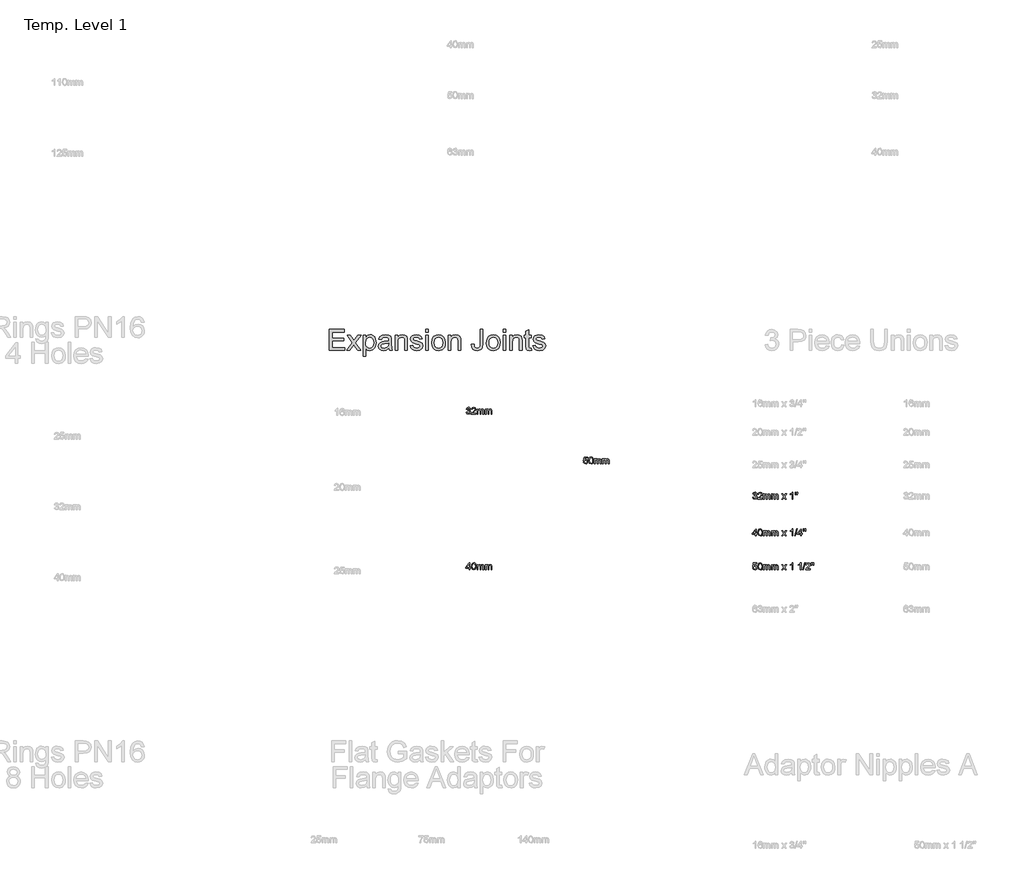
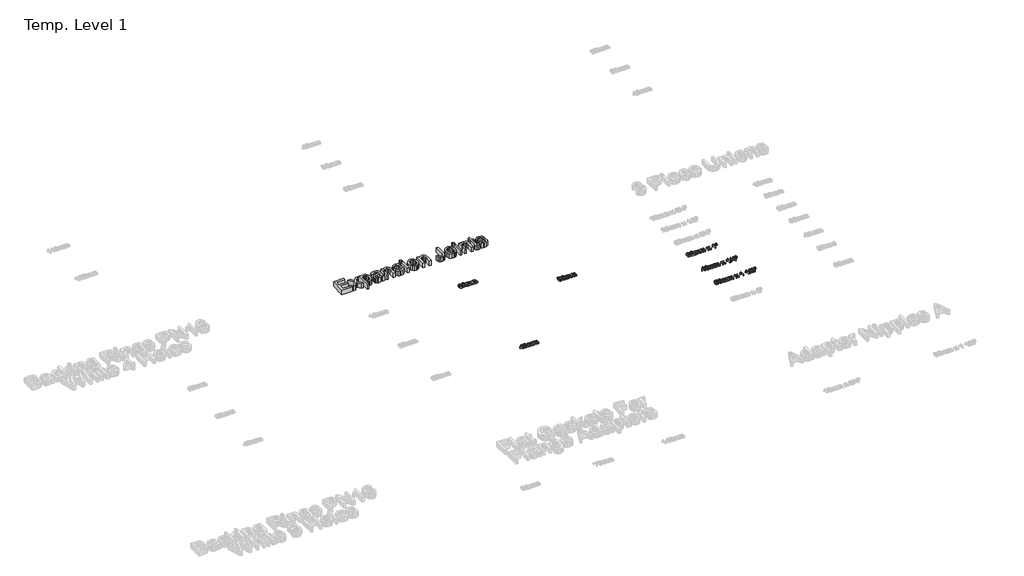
# One storey, part 12 of 62: 7 proxies.
"""IFC4 building model written with IfcOpenShell, lengths in millimetres."""

from ifc_helpers import new_model, si_unit, origin, origin_with_axes, place, context, project, spatial, polyline, outline, extrude, element, save

model = new_model("IFC4")

# Units and contexts
model_context = context("Model", 3, world=origin())
ifc_project = project(units=[si_unit("LENGTHUNIT", "METRE", prefix="MILLI")], contexts=[model_context])

# Site, building, storey
site = spatial("IfcSite", under=ifc_project)
building = spatial("IfcBuilding", under=site)
storey = spatial("IfcBuildingStorey", under=building, Name="Temp. Level 1", Elevation=0.0)

# Proxies
placement = place(None, origin())
element("IfcBuildingElementProxy", 1, Name="150mm Arial", ObjectType="150mm Arial", at=placement, inside=storey, context=model_context, shape_type="SweptSolid", body=[
    extrude(outline(polyline([(11659.9637904, -4070.198517), (11659.9637904, -3922.5062093), (11766.1176365, -3922.5062093), (11766.1176365, -3940.9677478), (11678.4253288, -3940.9677478), (11678.4253288, -3984.8139016), (11761.5022519, -3984.8139016), (11761.5022519, -4003.2754401), (11678.4253288, -4003.2754401), (11678.4253288, -4051.7369786), (11768.4253288, -4051.7369786), (11768.4253288, -4070.198517), (11659.9637904, -4070.198517)])), origin_with_axes(), (0.0, 0.0, 1.0), 50.0),
    extrude(outline(polyline([(11782.2714827, -4070.198517), (11821.7185981, -4015.6792862), (11784.579175, -3961.7369786), (11806.7907135, -3961.7369786), (11824.7113865, -3987.698517), (11833.0767712, -3999.9581324), (11840.3243673, -3989.9340939), (11860.7330212, -3961.7369786), (11882.9445596, -3961.7369786), (11843.9301365, -4015.6792862), (11881.5022519, -4070.198517), (11859.2907135, -4070.198517), (11836.6825404, -4037.4220747), (11832.5359058, -4031.4364978), (11804.4830212, -4070.198517), (11782.2714827, -4070.198517)])), origin_with_axes(), (0.0, 0.0, 1.0), 50.0),
    extrude(outline(polyline([(11897.6560981, -4111.7369786), (11897.6560981, -3961.7369786), (11916.1176365, -3961.7369786), (11916.1176365, -3979.8379401), (11928.8820596, -3964.5314497), (11946.1176365, -3959.4292862), (11958.6026125, -3961.214142), (11969.5190788, -3966.5687093), (11978.4073, -3975.1684689), (11984.8075404, -3986.6889016), (11989.9637904, -4015.1384209), (11988.5079611, -4030.9271829), (11984.1404731, -4045.0482766), (11977.00105, -4056.7850555), (11967.2294154, -4065.4208728), (11955.8487063, -4070.7348752), (11943.8820596, -4072.5062093), (11927.8183577, -4067.7646228), (11916.1176365, -4055.7754401), (11916.1176365, -4111.7369786), (11897.6560981, -4111.7369786)]), holes=[polyline([(11916.1176365, -4016.8331324), (11918.1143313, -4033.3836132), (11924.1044154, -4044.9581324), (11932.9430572, -4051.7730362), (11943.485425, -4054.0446709), (11954.1990668, -4051.6919064), (11963.2630692, -4044.6336132), (11969.4424563, -4032.6354161), (11971.5022519, -4015.4629401), (11969.4920356, -3999.0026036), (11963.4613865, -3987.2658247), (11954.6362663, -3980.2345747), (11944.2426365, -3977.8908247), (11933.8084418, -3980.3833127), (11924.6452808, -3987.8607766), (11918.2495476, -4000.0888415), (11916.1176365, -4016.8331324)])]), origin_with_axes(), (0.0, 0.0, 1.0), 50.0),
    extrude(outline(polyline([(12079.9637904, -4056.3523632), (12062.0611462, -4068.8643824), (12042.2835019, -4072.5062093), (12026.8553168, -4070.3157045), (12015.4746077, -4063.7441901), (12008.4568793, -4053.7652237), (12006.1176365, -4041.3523632), (12009.6512904, -4026.7489978), (12018.9361462, -4016.1480362), (12031.8628288, -4010.0903439), (12047.8363865, -4007.3139016), (12079.8556173, -4000.9677478), (12079.9637904, -3996.8571709), (12078.6927567, -3988.6179882), (12074.8796558, -3983.2273632), (12066.3520115, -3979.2249593), (12054.4710019, -3977.8908247), (12035.7931173, -3981.4425074), (12026.8868673, -3994.0446709), (12008.4253288, -3991.7369786), (12016.4121077, -3973.7081324), (12032.4938385, -3963.1432286), (12056.8508096, -3959.4292862), (12079.2246077, -3962.7105362), (12091.8628288, -3970.9497189), (12097.5238865, -3983.479767), (12098.4253288, -3999.6336132), (12098.4253288, -4022.6023632), (12099.3628288, -4054.6756805), (12103.0407135, -4070.198517), (12084.579175, -4070.198517), (12079.9637904, -4056.3523632)]), holes=[polyline([(12079.9637904, -4019.4292862), (12050.1801365, -4025.0903439), (12034.2967231, -4028.0831324), (12027.1032135, -4032.9509209), (12024.579175, -4040.0542862), (12030.0779731, -4050.042267), (12046.2137904, -4054.0446709), (12064.891675, -4049.6276036), (12076.9349442, -4038.9364978), (12079.8556173, -4024.6576516), (12079.9637904, -4019.4292862)])]), origin_with_axes(), (0.0, 0.0, 1.0), 50.0),
    extrude(outline(polyline([(12123.8099442, -4070.198517), (12123.8099442, -3961.7369786), (12142.2714827, -3961.7369786), (12142.2714827, -3976.8812093), (12156.3880692, -3963.792267), (12175.6609058, -3959.4292862), (12193.0948, -3962.9449112), (12204.9938385, -3972.1756805), (12210.5286942, -3985.7514016), (12211.5022519, -4003.5999593), (12211.5022519, -4070.198517), (12193.0407135, -4070.198517), (12193.0407135, -4006.0879401), (12190.9133096, -3989.7538055), (12183.3952808, -3981.1179882), (12170.7210019, -3977.8908247), (12159.9082014, -3979.7027237), (12150.6909538, -3985.1384209), (12144.3763505, -3995.6402237), (12142.2714827, -4012.6504401), (12142.2714827, -4070.198517), (12123.8099442, -4070.198517)])), origin_with_axes(), (0.0, 0.0, 1.0), 50.0),
    extrude(outline(polyline([(12229.9637904, -4037.8908247), (12248.4253288, -4035.5831324), (12251.3369875, -4043.479767), (12256.9710019, -4049.2850555), (12276.5503288, -4054.0446709), (12295.3724442, -4049.6816901), (12301.5022519, -4039.4413055), (12295.3363865, -4031.1480362), (12276.3339827, -4025.8836132), (12248.5335019, -4016.8511612), (12236.4000885, -4006.3042862), (12232.2714827, -3991.4124593), (12235.5887904, -3977.6564497), (12244.6392712, -3967.1456324), (12256.37605, -3961.682892), (12272.2594635, -3959.4292862), (12294.7234058, -3963.0530843), (12309.0022519, -3972.8607766), (12315.3484058, -3989.4292862), (12296.8868673, -3991.7369786), (12289.9457615, -3981.5506805), (12273.7017712, -3977.8908247), (12256.0335019, -3981.3884209), (12250.7330212, -3989.5374593), (12252.9325404, -3994.9100555), (12259.8195596, -3998.9845747), (12275.7210019, -4002.9148632), (12302.8183577, -4011.604767), (12315.4024923, -4021.448517), (12319.9637904, -4037.4941901), (12314.6092231, -4055.1624593), (12299.1585019, -4067.9809689), (12276.297925, -4072.5062093), (12257.6831413, -4070.3247189), (12244.0984058, -4063.7802478), (12235.0298962, -4052.9449112), (12229.9637904, -4037.8908247)])), origin_with_axes(), (0.0, 0.0, 1.0), 50.0),
    extrude(outline(polyline([(12340.7330212, -3940.9677478), (12340.7330212, -3922.5062093), (12359.1945596, -3922.5062093), (12359.1945596, -3940.9677478), (12340.7330212, -3940.9677478)])), origin_with_axes(), (0.0, 0.0, 1.0), 50.0),
    extrude(outline(polyline([(12340.7330212, -4070.198517), (12340.7330212, -3961.7369786), (12359.1945596, -3961.7369786), (12359.1945596, -4070.198517), (12340.7330212, -4070.198517)])), origin_with_axes(), (0.0, 0.0, 1.0), 50.0),
    extrude(outline(polyline([(12382.2714827, -4015.9677478), (12386.2648721, -3989.8169064), (12398.2450404, -3971.4364978), (12413.0467231, -3962.4310891), (12430.7690788, -3959.4292862), (12450.1636101, -3963.0846348), (12465.6548962, -3974.0506805), (12475.8096438, -3991.4620387), (12479.1945596, -4014.4533247), (12477.6981654, -4033.1041661), (12473.2089827, -4047.3018824), (12465.8577207, -4057.9343944), (12455.7750885, -4065.8896228), (12443.7994274, -4070.8520627), (12430.7690788, -4072.5062093), (12411.1401726, -4068.8643824), (12395.6669154, -4057.9389016), (12385.6203409, -4040.1624593), (12382.2714827, -4015.9677478)]), holes=[polyline([(12400.7330212, -4015.9316901), (12402.8694394, -4032.6399233), (12409.2786942, -4044.5434689), (12418.9241269, -4051.6693704), (12430.7690788, -4054.0446709), (12442.5599442, -4051.6558487), (12452.1873481, -4044.4893824), (12458.5966029, -4032.4280843), (12460.7330212, -4015.354767), (12458.5830813, -3999.1333127), (12452.1332615, -3987.3920266), (12442.4923361, -3980.2661252), (12430.7690788, -3977.8908247), (12418.9241269, -3980.2571108), (12409.2786942, -3987.3559689), (12402.8694394, -3999.2324713), (12400.7330212, -4015.9316901)])]), origin_with_axes(), (0.0, 0.0, 1.0), 50.0),
    extrude(outline(polyline([(12499.9637904, -4070.198517), (12499.9637904, -3961.7369786), (12518.4253288, -3961.7369786), (12518.4253288, -3976.8812093), (12532.5419154, -3963.792267), (12551.8147519, -3959.4292862), (12569.2486462, -3962.9449112), (12581.1476846, -3972.1756805), (12586.6825404, -3985.7514016), (12587.6560981, -4003.5999593), (12587.6560981, -4070.198517), (12569.1945596, -4070.198517), (12569.1945596, -4006.0879401), (12567.0671558, -3989.7538055), (12559.5491269, -3981.1179882), (12546.8748481, -3977.8908247), (12536.0620476, -3979.7027237), (12526.8448, -3985.1384209), (12520.5301966, -3995.6402237), (12518.4253288, -4012.6504401), (12518.4253288, -4070.198517), (12499.9637904, -4070.198517)])), origin_with_axes(), (0.0, 0.0, 1.0), 50.0),
    extrude(outline(polyline([(12663.8099442, -4028.7321709), (12682.2714827, -4026.3523632), (12684.1915548, -4039.7748391), (12688.5815788, -4048.167267), (12695.2883096, -4052.5753199), (12704.1585019, -4054.0446709), (12716.7967231, -4050.7093343), (12724.1164346, -4041.6227959), (12726.1176365, -4023.323517), (12726.1176365, -3922.5062093), (12744.579175, -3922.5062093), (12744.579175, -4022.9989978), (12740.12605, -4051.682892), (12734.3658337, -4060.6297069), (12725.9914346, -4067.1696709), (12703.2931173, -4072.5062093), (12686.2288144, -4069.7523031), (12673.6897519, -4061.4905843), (12666.0815788, -4047.7931685), (12663.8099442, -4028.7321709)])), origin_with_axes(), (0.0, 0.0, 1.0), 50.0),
    extrude(outline(polyline([(12769.9637904, -4015.9677478), (12773.9571798, -3989.8169064), (12785.9373481, -3971.4364978), (12800.7390308, -3962.4310891), (12818.4613865, -3959.4292862), (12837.8559178, -3963.0846348), (12853.3472038, -3974.0506805), (12863.5019514, -3991.4620387), (12866.8868673, -4014.4533247), (12865.3904731, -4033.1041661), (12860.9012904, -4047.3018824), (12853.5500284, -4057.9343944), (12843.4673962, -4065.8896228), (12831.4917351, -4070.8520627), (12818.4613865, -4072.5062093), (12798.8324803, -4068.8643824), (12783.3592231, -4057.9389016), (12773.3126486, -4040.1624593), (12769.9637904, -4015.9677478)]), holes=[polyline([(12788.4253288, -4015.9316901), (12790.5617471, -4032.6399233), (12796.9710019, -4044.5434689), (12806.6164346, -4051.6693704), (12818.4613865, -4054.0446709), (12830.2522519, -4051.6558487), (12839.8796558, -4044.4893824), (12846.2889106, -4032.4280843), (12848.4253288, -4015.354767), (12846.2753889, -3999.1333127), (12839.8255692, -3987.3920266), (12830.1846438, -3980.2661252), (12818.4613865, -3977.8908247), (12806.6164346, -3980.2571108), (12796.9710019, -3987.3559689), (12790.5617471, -3999.2324713), (12788.4253288, -4015.9316901)])]), origin_with_axes(), (0.0, 0.0, 1.0), 50.0),
    extrude(outline(polyline([(12887.6560981, -4070.198517), (12887.6560981, -3961.7369786), (12906.1176365, -3961.7369786), (12906.1176365, -4070.198517), (12887.6560981, -4070.198517)])), origin_with_axes(), (0.0, 0.0, 1.0), 50.0),
    extrude(outline(polyline([(12887.6560981, -3940.9677478), (12887.6560981, -3922.5062093), (12906.1176365, -3922.5062093), (12906.1176365, -3940.9677478), (12887.6560981, -3940.9677478)])), origin_with_axes(), (0.0, 0.0, 1.0), 50.0),
    extrude(outline(polyline([(12933.8099442, -4070.198517), (12933.8099442, -3961.7369786), (12952.2714827, -3961.7369786), (12952.2714827, -3976.8812093), (12966.3880692, -3963.792267), (12985.6609058, -3959.4292862), (13003.0948, -3962.9449112), (13014.9938385, -3972.1756805), (13020.5286942, -3985.7514016), (13021.5022519, -4003.5999593), (13021.5022519, -4070.198517), (13003.0407135, -4070.198517), (13003.0407135, -4006.0879401), (13000.9133096, -3989.7538055), (12993.3952808, -3981.1179882), (12980.7210019, -3977.8908247), (12969.9082014, -3979.7027237), (12960.6909538, -3985.1384209), (12954.3763505, -3995.6402237), (12952.2714827, -4012.6504401), (12952.2714827, -4070.198517), (12933.8099442, -4070.198517)])), origin_with_axes(), (0.0, 0.0, 1.0), 50.0),
    extrude(outline(polyline([(13086.1176365, -4054.8018824), (13088.4253288, -4070.7393824), (13074.6152327, -4072.5062093), (13059.1464827, -4069.4413055), (13051.4301365, -4061.4004401), (13049.1945596, -4040.4509209), (13049.1945596, -3980.198517), (13035.3484058, -3980.198517), (13035.3484058, -3961.7369786), (13049.1945596, -3961.7369786), (13049.1945596, -3935.3788055), (13067.6560981, -3924.5254401), (13067.6560981, -3961.7369786), (13086.1176365, -3961.7369786), (13086.1176365, -3980.198517), (13067.6560981, -3980.198517), (13067.6560981, -4039.9100555), (13068.6296558, -4049.4292862), (13071.7847038, -4052.8006805), (13078.0767712, -4054.0446709), (13086.1176365, -4054.8018824)])), origin_with_axes(), (0.0, 0.0, 1.0), 50.0),
    extrude(outline(polyline([(13097.6560981, -4037.8908247), (13116.1176365, -4035.5831324), (13119.0292952, -4043.479767), (13124.6633096, -4049.2850555), (13144.2426365, -4054.0446709), (13163.0647519, -4049.6816901), (13169.1945596, -4039.4413055), (13163.0286942, -4031.1480362), (13144.0262904, -4025.8836132), (13116.2258096, -4016.8511612), (13104.0923962, -4006.3042862), (13099.9637904, -3991.4124593), (13103.2810981, -3977.6564497), (13112.3315788, -3967.1456324), (13124.0683577, -3961.682892), (13139.9517712, -3959.4292862), (13162.4157135, -3963.0530843), (13176.6945596, -3972.8607766), (13183.0407135, -3989.4292862), (13164.579175, -3991.7369786), (13157.6380692, -3981.5506805), (13141.3940788, -3977.8908247), (13123.7258096, -3981.3884209), (13118.4253288, -3989.5374593), (13120.6248481, -3994.9100555), (13127.5118673, -3998.9845747), (13143.4133096, -4002.9148632), (13170.5106654, -4011.604767), (13183.0948, -4021.448517), (13187.6560981, -4037.4941901), (13182.3015308, -4055.1624593), (13166.8508096, -4067.9809689), (13143.9902327, -4072.5062093), (13125.375449, -4070.3247189), (13111.7907135, -4063.7802478), (13102.7222038, -4052.9449112), (13097.6560981, -4037.8908247)])), origin_with_axes(), (0.0, 0.0, 1.0), 50.0),
])
element("IfcBuildingElementProxy", 2, Name="50mm Arial", ObjectType="50mm Arial", at=placement, inside=storey, context=model_context, shape_type="SweptSolid", body=[
    extrude(outline(polyline([(12626.506, -4507.8404181), (12632.6598462, -4507.0711873), (12636.0552789, -4513.5495527), (12642.4074423, -4515.5327257), (12649.8834039, -4512.8043604), (12652.6598462, -4506.0495527), (12649.9074423, -4499.68537), (12642.91225, -4497.1673411), (12638.5973462, -4497.8404181), (12639.2824423, -4491.6865719), (12647.2511923, -4489.9918604), (12650.3521539, -4484.5591681), (12648.1045577, -4479.7454661), (12642.3112885, -4477.8404181), (12636.4459039, -4479.763495), (12633.4290769, -4485.5327257), (12627.2752308, -4484.763495), (12632.3112885, -4475.1120527), (12642.0949423, -4471.6865719), (12649.5168173, -4473.3752738), (12654.709125, -4477.9906584), (12656.506, -4484.1985911), (12654.7992692, -4489.8716681), (12649.7511923, -4493.9461873), (12656.4579231, -4498.1529181), (12658.8136923, -4506.1577257), (12654.1021539, -4517.1673411), (12642.1910962, -4521.6865719), (12631.3978269, -4517.8283988), (12626.506, -4507.8404181)])), origin_with_axes(), (0.0, 0.0, 1.0), 15.0),
    extrude(outline(polyline([(12695.7367692, -4514.763495), (12695.7367692, -4520.9173411), (12663.4290769, -4520.9173411), (12664.0901346, -4516.6745527), (12667.8281154, -4510.1421007), (12675.5324423, -4503.0086873), (12686.1574423, -4492.7562834), (12688.8136923, -4485.7851296), (12686.3076827, -4480.1421007), (12679.7632115, -4477.8404181), (12672.9422981, -4480.0880142), (12670.3521539, -4486.3019565), (12664.1983077, -4485.5327257), (12668.9158558, -4475.232245), (12679.8954231, -4471.6865719), (12690.9110481, -4475.6288796), (12694.9675385, -4485.4125334), (12693.8737885, -4491.24787), (12690.2379712, -4497.2815238), (12681.4218654, -4505.7130142), (12674.3425385, -4511.6324854), (12671.5660962, -4514.763495), (12695.7367692, -4514.763495)])), origin_with_axes(), (0.0, 0.0, 1.0), 15.0),
    extrude(outline(polyline([(12703.4290769, -4520.9173411), (12703.4290769, -4484.763495), (12709.5829231, -4484.763495), (12709.5829231, -4490.7130142), (12713.8136923, -4485.8392161), (12719.8353269, -4483.9942642), (12726.0011923, -4485.8752738), (12729.3906154, -4491.1457065), (12734.1922981, -4485.7821248), (12740.256, -4483.9942642), (12748.302875, -4486.9690238), (12751.1213846, -4496.1336873), (12751.1213846, -4520.9173411), (12744.9675385, -4520.9173411), (12744.9675385, -4498.7779181), (12744.396625, -4493.6396969), (12742.3293173, -4491.1096488), (12738.8136923, -4490.1481104), (12732.7620096, -4492.6120527), (12730.3521539, -4500.5086873), (12730.3521539, -4520.9173411), (12724.1983077, -4520.9173411), (12724.1983077, -4498.0928219), (12722.7740289, -4492.1312834), (12718.1045577, -4490.1481104), (12713.5492692, -4491.4702257), (12710.5204231, -4495.3404181), (12709.5829231, -4502.6841681), (12709.5829231, -4520.9173411), (12703.4290769, -4520.9173411)])), origin_with_axes(), (0.0, 0.0, 1.0), 15.0),
    extrude(outline(polyline([(12760.3521539, -4520.9173411), (12760.3521539, -4484.763495), (12766.506, -4484.763495), (12766.506, -4490.7130142), (12770.7367692, -4485.8392161), (12776.7584039, -4483.9942642), (12782.9242692, -4485.8752738), (12786.3136923, -4491.1457065), (12791.115375, -4485.7821248), (12797.1790769, -4483.9942642), (12805.2259519, -4486.9690238), (12808.0444615, -4496.1336873), (12808.0444615, -4520.9173411), (12801.8906154, -4520.9173411), (12801.8906154, -4498.7779181), (12801.3197019, -4493.6396969), (12799.2523942, -4491.1096488), (12795.7367692, -4490.1481104), (12789.6850865, -4492.6120527), (12787.2752308, -4500.5086873), (12787.2752308, -4520.9173411), (12781.1213846, -4520.9173411), (12781.1213846, -4498.0928219), (12779.6971058, -4492.1312834), (12775.0276346, -4490.1481104), (12770.4723462, -4491.4702257), (12767.4435, -4495.3404181), (12766.506, -4502.6841681), (12766.506, -4520.9173411), (12760.3521539, -4520.9173411)])), origin_with_axes(), (0.0, 0.0, 1.0), 15.0),
])
element("IfcBuildingElementProxy", 3, Name="50mm Arial", ObjectType="50mm Arial", at=placement, inside=storey, context=model_context, shape_type="SweptSolid", body=[
    extrude(outline(polyline([(12646.506, -5620.9173411), (12646.506, -5609.3788796), (12624.1983077, -5609.3788796), (12624.1983077, -5603.2250334), (12648.0444615, -5572.4558027), (12652.6598462, -5572.4558027), (12652.6598462, -5603.2250334), (12658.8136923, -5603.2250334), (12658.8136923, -5609.3788796), (12652.6598462, -5609.3788796), (12652.6598462, -5620.9173411), (12646.506, -5620.9173411)]), holes=[polyline([(12646.506, -5603.2250334), (12646.506, -5584.2106104), (12631.7704231, -5603.2250334), (12646.506, -5603.2250334)])]), origin_with_axes(), (0.0, 0.0, 1.0), 15.0),
    extrude(outline(polyline([(12664.1983077, -5596.6985911), (12666.0072019, -5582.5339277), (12671.3797981, -5574.3668604), (12680.3521539, -5571.6865719), (12687.5396539, -5573.2731104), (12692.5035962, -5577.8464277), (12695.3882115, -5585.1300815), (12696.506, -5596.6985911), (12694.7151346, -5610.8031584), (12689.3605673, -5618.9882546), (12680.3521539, -5621.6865719), (12669.1021539, -5616.9990719), (12665.4242692, -5608.6727498), (12664.1983077, -5596.6985911)]), holes=[polyline([(12670.3521539, -5596.6865719), (12673.2367692, -5611.9690238), (12680.3521539, -5615.5327257), (12687.4675385, -5611.9570046), (12690.3521539, -5596.6865719), (12687.5636923, -5581.5783988), (12680.2800385, -5577.8404181), (12673.3329231, -5581.1336873), (12670.3521539, -5596.6865719)])]), origin_with_axes(), (0.0, 0.0, 1.0), 15.0),
    extrude(outline(polyline([(12703.4290769, -5620.9173411), (12703.4290769, -5584.763495), (12709.5829231, -5584.763495), (12709.5829231, -5590.7130142), (12713.8136923, -5585.8392161), (12719.8353269, -5583.9942642), (12726.0011923, -5585.8752738), (12729.3906154, -5591.1457065), (12734.1922981, -5585.7821248), (12740.256, -5583.9942642), (12748.302875, -5586.9690238), (12751.1213846, -5596.1336873), (12751.1213846, -5620.9173411), (12744.9675385, -5620.9173411), (12744.9675385, -5598.7779181), (12744.396625, -5593.6396969), (12742.3293173, -5591.1096488), (12738.8136923, -5590.1481104), (12732.7620096, -5592.6120527), (12730.3521539, -5600.5086873), (12730.3521539, -5620.9173411), (12724.1983077, -5620.9173411), (12724.1983077, -5598.0928219), (12722.7740289, -5592.1312834), (12718.1045577, -5590.1481104), (12713.5492692, -5591.4702257), (12710.5204231, -5595.3404181), (12709.5829231, -5602.6841681), (12709.5829231, -5620.9173411), (12703.4290769, -5620.9173411)])), origin_with_axes(), (0.0, 0.0, 1.0), 15.0),
    extrude(outline(polyline([(12760.3521539, -5620.9173411), (12760.3521539, -5584.763495), (12766.506, -5584.763495), (12766.506, -5590.7130142), (12770.7367692, -5585.8392161), (12776.7584039, -5583.9942642), (12782.9242692, -5585.8752738), (12786.3136923, -5591.1457065), (12791.115375, -5585.7821248), (12797.1790769, -5583.9942642), (12805.2259519, -5586.9690238), (12808.0444615, -5596.1336873), (12808.0444615, -5620.9173411), (12801.8906154, -5620.9173411), (12801.8906154, -5598.7779181), (12801.3197019, -5593.6396969), (12799.2523942, -5591.1096488), (12795.7367692, -5590.1481104), (12789.6850865, -5592.6120527), (12787.2752308, -5600.5086873), (12787.2752308, -5620.9173411), (12781.1213846, -5620.9173411), (12781.1213846, -5598.0928219), (12779.6971058, -5592.1312834), (12775.0276346, -5590.1481104), (12770.4723462, -5591.4702257), (12767.4435, -5595.3404181), (12766.506, -5602.6841681), (12766.506, -5620.9173411), (12760.3521539, -5620.9173411)])), origin_with_axes(), (0.0, 0.0, 1.0), 15.0),
])
element("IfcBuildingElementProxy", 4, Name="50mm Arial", ObjectType="50mm Arial", at=placement, inside=storey, context=model_context, shape_type="SweptSolid", body=[
    extrude(outline(polyline([(13454.9603681, -4859.4984337), (13461.1142143, -4858.7292029), (13464.2151758, -4865.0693472), (13470.6454643, -4867.1907414), (13478.3618104, -4864.2400202), (13481.1142143, -4856.4094914), (13478.5360893, -4849.1017991), (13470.7416181, -4846.4215106), (13465.3389739, -4847.4912222), (13461.883445, -4850.2676645), (13455.7295989, -4849.4984337), (13461.1142143, -4824.1138183), (13484.9603681, -4824.1138183), (13484.9603681, -4830.2676645), (13466.0901758, -4830.2676645), (13463.4579643, -4843.8253568), (13472.4603681, -4840.2676645), (13482.9832047, -4844.6787222), (13487.2680604, -4856.024876), (13483.4098873, -4867.4431452), (13477.869022, -4871.869227), (13470.6214258, -4873.3445875), (13459.7620508, -4869.5525202), (13454.9603681, -4859.4984337)])), origin_with_axes(), (0.0, 0.0, 1.0), 15.0),
    extrude(outline(polyline([(13492.6526758, -4848.3566068), (13494.46157, -4834.1919433), (13499.8341662, -4826.024876), (13508.806522, -4823.3445875), (13515.994022, -4824.931126), (13520.9579643, -4829.5044433), (13523.8425797, -4836.7880972), (13524.9603681, -4848.3566068), (13523.1695027, -4862.4611741), (13517.8149354, -4870.6462702), (13508.806522, -4873.3445875), (13497.556522, -4868.6570875), (13493.8786373, -4860.3307654), (13492.6526758, -4848.3566068)]), holes=[polyline([(13498.806522, -4848.3445875), (13501.6911373, -4863.6270395), (13508.806522, -4867.1907414), (13515.9219066, -4863.6150202), (13518.806522, -4848.3445875), (13516.0180604, -4833.2364145), (13508.7344066, -4829.4984337), (13501.7872912, -4832.7917029), (13498.806522, -4848.3445875)])]), origin_with_axes(), (0.0, 0.0, 1.0), 15.0),
    extrude(outline(polyline([(13531.883445, -4872.5753568), (13531.883445, -4836.4215106), (13538.0372912, -4836.4215106), (13538.0372912, -4842.3710299), (13542.2680604, -4837.4972318), (13548.289695, -4835.6522799), (13554.4555604, -4837.5332895), (13557.8449835, -4842.8037222), (13562.6466662, -4837.4401404), (13568.7103681, -4835.6522799), (13576.7572431, -4838.6270395), (13579.5757527, -4847.7917029), (13579.5757527, -4872.5753568), (13573.4219066, -4872.5753568), (13573.4219066, -4850.4359337), (13572.8509931, -4845.2977125), (13570.7836854, -4842.7676645), (13567.2680604, -4841.806126), (13561.2163777, -4844.2700683), (13558.806522, -4852.1667029), (13558.806522, -4872.5753568), (13552.6526758, -4872.5753568), (13552.6526758, -4849.7508375), (13551.228397, -4843.7892991), (13546.5589258, -4841.806126), (13542.0036373, -4843.1282414), (13538.9747912, -4846.9984337), (13538.0372912, -4854.3421837), (13538.0372912, -4872.5753568), (13531.883445, -4872.5753568)])), origin_with_axes(), (0.0, 0.0, 1.0), 15.0),
    extrude(outline(polyline([(13588.806522, -4872.5753568), (13588.806522, -4836.4215106), (13594.9603681, -4836.4215106), (13594.9603681, -4842.3710299), (13599.1911373, -4837.4972318), (13605.212772, -4835.6522799), (13611.3786373, -4837.5332895), (13614.7680604, -4842.8037222), (13619.5697431, -4837.4401404), (13625.633445, -4835.6522799), (13633.68032, -4838.6270395), (13636.4988297, -4847.7917029), (13636.4988297, -4872.5753568), (13630.3449835, -4872.5753568), (13630.3449835, -4850.4359337), (13629.77407, -4845.2977125), (13627.7067623, -4842.7676645), (13624.1911373, -4841.806126), (13618.1394547, -4844.2700683), (13615.7295989, -4852.1667029), (13615.7295989, -4872.5753568), (13609.5757527, -4872.5753568), (13609.5757527, -4849.7508375), (13608.1514739, -4843.7892991), (13603.4820027, -4841.806126), (13598.9267143, -4843.1282414), (13595.8978681, -4846.9984337), (13594.9603681, -4854.3421837), (13594.9603681, -4872.5753568), (13588.806522, -4872.5753568)])), origin_with_axes(), (0.0, 0.0, 1.0), 15.0),
])
element("IfcBuildingElementProxy", 5, Name="50mm Arial", ObjectType="50mm Arial", at=placement, inside=storey, context=model_context, shape_type="SweptSolid", body=[
    extrude(outline(polyline([(14651.1751509, -5108.3990728), (14657.3289971, -5107.629842), (14660.7244297, -5114.1082074), (14667.0765932, -5116.0913805), (14674.5525547, -5113.3630151), (14677.3289971, -5106.6082074), (14674.5765932, -5100.2440247), (14667.5814009, -5097.7259959), (14663.2664971, -5098.3990728), (14663.9515932, -5092.2452267), (14671.9203432, -5090.5505151), (14675.0213047, -5085.1178228), (14672.7737086, -5080.3041209), (14666.9804394, -5078.3990728), (14661.1150547, -5080.3221497), (14658.0982278, -5086.0913805), (14651.9443817, -5085.3221497), (14656.9804394, -5075.6707074), (14666.7640932, -5072.2452267), (14674.1859682, -5073.9339286), (14679.3782759, -5078.5493132), (14681.1751509, -5084.7572459), (14679.4684201, -5090.4303228), (14674.4203432, -5094.504842), (14681.127074, -5098.7115728), (14683.4828432, -5106.7163805), (14678.7713047, -5117.7259959), (14666.8602471, -5122.2452267), (14656.0669778, -5118.3870536), (14651.1751509, -5108.3990728)])), origin_with_axes(), (0.0, 0.0, 1.0), 15.0),
    extrude(outline(polyline([(14720.4059201, -5115.3221497), (14720.4059201, -5121.4759959), (14688.0982278, -5121.4759959), (14688.7592855, -5117.2332074), (14692.4972663, -5110.7007555), (14700.2015932, -5103.567342), (14710.8265932, -5093.3149382), (14713.4828432, -5086.3437843), (14710.9768336, -5080.7007555), (14704.4323624, -5078.3990728), (14697.611449, -5080.646669), (14695.0213047, -5086.8606113), (14688.8674586, -5086.0913805), (14693.5850067, -5075.7908997), (14704.564574, -5072.2452267), (14715.580199, -5076.1875343), (14719.6366894, -5085.9711882), (14718.5429394, -5091.8065247), (14714.9071221, -5097.8401786), (14706.0910163, -5106.271669), (14699.0116894, -5112.1911401), (14696.2352471, -5115.3221497), (14720.4059201, -5115.3221497)])), origin_with_axes(), (0.0, 0.0, 1.0), 15.0),
    extrude(outline(polyline([(14728.0982278, -5121.4759959), (14728.0982278, -5085.3221497), (14734.252074, -5085.3221497), (14734.252074, -5091.271669), (14738.4828432, -5086.3978709), (14744.5044778, -5084.552919), (14750.6703432, -5086.4339286), (14754.0597663, -5091.7043613), (14758.861449, -5086.3407795), (14764.9251509, -5084.552919), (14772.9720259, -5087.5276786), (14775.7905355, -5096.692342), (14775.7905355, -5121.4759959), (14769.6366894, -5121.4759959), (14769.6366894, -5099.3365728), (14769.0657759, -5094.1983517), (14766.9984682, -5091.6683036), (14763.4828432, -5090.7067651), (14757.4311605, -5093.1707074), (14755.0213047, -5101.067342), (14755.0213047, -5121.4759959), (14748.8674586, -5121.4759959), (14748.8674586, -5098.6514767), (14747.4431797, -5092.6899382), (14742.7737086, -5090.7067651), (14738.2184201, -5092.0288805), (14735.189574, -5095.8990728), (14734.252074, -5103.2428228), (14734.252074, -5121.4759959), (14728.0982278, -5121.4759959)])), origin_with_axes(), (0.0, 0.0, 1.0), 15.0),
    extrude(outline(polyline([(14785.0213047, -5121.4759959), (14785.0213047, -5085.3221497), (14791.1751509, -5085.3221497), (14791.1751509, -5091.271669), (14795.4059201, -5086.3978709), (14801.4275547, -5084.552919), (14807.5934201, -5086.4339286), (14810.9828432, -5091.7043613), (14815.7845259, -5086.3407795), (14821.8482278, -5084.552919), (14829.8951028, -5087.5276786), (14832.7136124, -5096.692342), (14832.7136124, -5121.4759959), (14826.5597663, -5121.4759959), (14826.5597663, -5099.3365728), (14825.9888528, -5094.1983517), (14823.9215451, -5091.6683036), (14820.4059201, -5090.7067651), (14814.3542374, -5093.1707074), (14811.9443817, -5101.067342), (14811.9443817, -5121.4759959), (14805.7905355, -5121.4759959), (14805.7905355, -5098.6514767), (14804.3662567, -5092.6899382), (14799.6967855, -5090.7067651), (14795.1414971, -5092.0288805), (14792.1126509, -5095.8990728), (14791.1751509, -5103.2428228), (14791.1751509, -5121.4759959), (14785.0213047, -5121.4759959)])), origin_with_axes(), (0.0, 0.0, 1.0), 15.0),
    extrude(outline(polyline([(14857.3289971, -5121.4759959), (14870.4780355, -5103.302919), (14858.0982278, -5085.3221497), (14865.502074, -5085.3221497), (14871.4756317, -5093.9759959), (14874.2640932, -5098.0625343), (14876.6799586, -5094.7211882), (14883.4828432, -5085.3221497), (14890.8866894, -5085.3221497), (14877.8818817, -5103.302919), (14890.4059201, -5121.4759959), (14883.002074, -5121.4759959), (14875.4660163, -5110.5505151), (14874.0838047, -5108.5553228), (14864.7328432, -5121.4759959), (14857.3289971, -5121.4759959)])), origin_with_axes(), (0.0, 0.0, 1.0), 15.0),
    extrude(outline(polyline([(14936.5597663, -5121.4759959), (14930.4059201, -5121.4759959), (14930.4059201, -5083.1106113), (14924.5765932, -5087.2632555), (14918.0982278, -5090.3702267), (14918.0982278, -5084.552919), (14927.1186605, -5078.7957074), (14932.5934201, -5072.2452267), (14936.5597663, -5072.2452267), (14936.5597663, -5121.4759959)])), origin_with_axes(), (0.0, 0.0, 1.0), 15.0),
    extrude(outline(polyline([(14952.6775547, -5089.9375343), (14951.1751509, -5080.4303228), (14951.1751509, -5072.2452267), (14957.3289971, -5072.2452267), (14957.3289971, -5080.4303228), (14955.9828432, -5089.9375343), (14952.6775547, -5089.9375343)])), origin_with_axes(), (0.0, 0.0, 1.0), 15.0),
    extrude(outline(polyline([(14964.9491894, -5089.9375343), (14963.4828432, -5080.4303228), (14963.4828432, -5072.2452267), (14969.6366894, -5072.2452267), (14969.6366894, -5080.4303228), (14968.1943817, -5089.9375343), (14964.9491894, -5089.9375343)])), origin_with_axes(), (0.0, 0.0, 1.0), 15.0),
])
element("IfcBuildingElementProxy", 6, Name="50mm Arial", ObjectType="50mm Arial", at=placement, inside=storey, context=model_context, shape_type="SweptSolid", body=[
    extrude(outline(polyline([(14671.1751509, -5381.4759959), (14671.1751509, -5369.9375343), (14648.8674586, -5369.9375343), (14648.8674586, -5363.7836882), (14672.7136124, -5333.0144574), (14677.3289971, -5333.0144574), (14677.3289971, -5363.7836882), (14683.4828432, -5363.7836882), (14683.4828432, -5369.9375343), (14677.3289971, -5369.9375343), (14677.3289971, -5381.4759959), (14671.1751509, -5381.4759959)]), holes=[polyline([(14671.1751509, -5363.7836882), (14671.1751509, -5344.7692651), (14656.439574, -5363.7836882), (14671.1751509, -5363.7836882)])]), origin_with_axes(), (0.0, 0.0, 1.0), 15.0),
    extrude(outline(polyline([(14688.8674586, -5357.2572459), (14690.6763528, -5343.0925824), (14696.048949, -5334.9255151), (14705.0213047, -5332.2452267), (14712.2088047, -5333.8317651), (14717.1727471, -5338.4050824), (14720.0573624, -5345.6887363), (14721.1751509, -5357.2572459), (14719.3842855, -5371.3618132), (14714.0297182, -5379.5469093), (14705.0213047, -5382.2452267), (14693.7713047, -5377.5577267), (14690.0934201, -5369.2314045), (14688.8674586, -5357.2572459)]), holes=[polyline([(14695.0213047, -5357.2452267), (14697.9059201, -5372.5276786), (14705.0213047, -5376.0913805), (14712.1366894, -5372.5156593), (14715.0213047, -5357.2452267), (14712.2328432, -5342.1370536), (14704.9491894, -5338.3990728), (14698.002074, -5341.692342), (14695.0213047, -5357.2452267)])]), origin_with_axes(), (0.0, 0.0, 1.0), 15.0),
    extrude(outline(polyline([(14728.0982278, -5381.4759959), (14728.0982278, -5345.3221497), (14734.252074, -5345.3221497), (14734.252074, -5351.271669), (14738.4828432, -5346.3978709), (14744.5044778, -5344.552919), (14750.6703432, -5346.4339286), (14754.0597663, -5351.7043613), (14758.861449, -5346.3407795), (14764.9251509, -5344.552919), (14772.9720259, -5347.5276786), (14775.7905355, -5356.692342), (14775.7905355, -5381.4759959), (14769.6366894, -5381.4759959), (14769.6366894, -5359.3365728), (14769.0657759, -5354.1983517), (14766.9984682, -5351.6683036), (14763.4828432, -5350.7067651), (14757.4311605, -5353.1707074), (14755.0213047, -5361.067342), (14755.0213047, -5381.4759959), (14748.8674586, -5381.4759959), (14748.8674586, -5358.6514767), (14747.4431797, -5352.6899382), (14742.7737086, -5350.7067651), (14738.2184201, -5352.0288805), (14735.189574, -5355.8990728), (14734.252074, -5363.2428228), (14734.252074, -5381.4759959), (14728.0982278, -5381.4759959)])), origin_with_axes(), (0.0, 0.0, 1.0), 15.0),
    extrude(outline(polyline([(14785.0213047, -5381.4759959), (14785.0213047, -5345.3221497), (14791.1751509, -5345.3221497), (14791.1751509, -5351.271669), (14795.4059201, -5346.3978709), (14801.4275547, -5344.552919), (14807.5934201, -5346.4339286), (14810.9828432, -5351.7043613), (14815.7845259, -5346.3407795), (14821.8482278, -5344.552919), (14829.8951028, -5347.5276786), (14832.7136124, -5356.692342), (14832.7136124, -5381.4759959), (14826.5597663, -5381.4759959), (14826.5597663, -5359.3365728), (14825.9888528, -5354.1983517), (14823.9215451, -5351.6683036), (14820.4059201, -5350.7067651), (14814.3542374, -5353.1707074), (14811.9443817, -5361.067342), (14811.9443817, -5381.4759959), (14805.7905355, -5381.4759959), (14805.7905355, -5358.6514767), (14804.3662567, -5352.6899382), (14799.6967855, -5350.7067651), (14795.1414971, -5352.0288805), (14792.1126509, -5355.8990728), (14791.1751509, -5363.2428228), (14791.1751509, -5381.4759959), (14785.0213047, -5381.4759959)])), origin_with_axes(), (0.0, 0.0, 1.0), 15.0),
    extrude(outline(polyline([(14857.3289971, -5381.4759959), (14870.4780355, -5363.302919), (14858.0982278, -5345.3221497), (14865.502074, -5345.3221497), (14871.4756317, -5353.9759959), (14874.2640932, -5358.0625343), (14876.6799586, -5354.7211882), (14883.4828432, -5345.3221497), (14890.8866894, -5345.3221497), (14877.8818817, -5363.302919), (14890.4059201, -5381.4759959), (14883.002074, -5381.4759959), (14875.4660163, -5370.5505151), (14874.0838047, -5368.5553228), (14864.7328432, -5381.4759959), (14857.3289971, -5381.4759959)])), origin_with_axes(), (0.0, 0.0, 1.0), 15.0),
    extrude(outline(polyline([(14936.5597663, -5381.4759959), (14930.4059201, -5381.4759959), (14930.4059201, -5343.1106113), (14924.5765932, -5347.2632555), (14918.0982278, -5350.3702267), (14918.0982278, -5344.552919), (14927.1186605, -5338.7957074), (14932.5934201, -5332.2452267), (14936.5597663, -5332.2452267), (14936.5597663, -5381.4759959)])), origin_with_axes(), (0.0, 0.0, 1.0), 15.0),
    extrude(outline(polyline([(14948.0982278, -5381.4759959), (14961.9443817, -5332.2452267), (14967.4972663, -5332.2452267), (14953.6511124, -5381.4759959), (14948.0982278, -5381.4759959)])), origin_with_axes(), (0.0, 0.0, 1.0), 15.0),
    extrude(outline(polyline([(14990.4059201, -5381.4759959), (14990.4059201, -5369.9375343), (14968.0982278, -5369.9375343), (14968.0982278, -5363.7836882), (14991.9443817, -5333.0144574), (14996.5597663, -5333.0144574), (14996.5597663, -5363.7836882), (15002.7136124, -5363.7836882), (15002.7136124, -5369.9375343), (14996.5597663, -5369.9375343), (14996.5597663, -5381.4759959), (14990.4059201, -5381.4759959)]), holes=[polyline([(14990.4059201, -5363.7836882), (14990.4059201, -5344.7692651), (14975.6703432, -5363.7836882), (14990.4059201, -5363.7836882)])]), origin_with_axes(), (0.0, 0.0, 1.0), 15.0),
    extrude(outline(polyline([(15021.8722663, -5349.9375343), (15020.4059201, -5340.4303228), (15020.4059201, -5332.2452267), (15026.5597663, -5332.2452267), (15026.5597663, -5340.4303228), (15025.1174586, -5349.9375343), (15021.8722663, -5349.9375343)])), origin_with_axes(), (0.0, 0.0, 1.0), 15.0),
    extrude(outline(polyline([(15009.6006317, -5349.9375343), (15008.0982278, -5340.4303228), (15008.0982278, -5332.2452267), (15014.252074, -5332.2452267), (15014.252074, -5340.4303228), (15012.9059201, -5349.9375343), (15009.6006317, -5349.9375343)])), origin_with_axes(), (0.0, 0.0, 1.0), 15.0),
])
element("IfcBuildingElementProxy", 7, Name="50mm Arial", ObjectType="50mm Arial", at=placement, inside=storey, context=model_context, shape_type="SweptSolid", body=[
    extrude(outline(polyline([(14651.1751509, -5608.3990728), (14657.3289971, -5607.629842), (14660.4299586, -5613.9699863), (14666.8602471, -5616.0913805), (14674.5765932, -5613.1406593), (14677.3289971, -5605.3101305), (14674.7508721, -5598.0024382), (14666.9564009, -5595.3221497), (14661.5537567, -5596.3918613), (14658.0982278, -5599.1683036), (14651.9443817, -5598.3990728), (14657.3289971, -5573.0144574), (14681.1751509, -5573.0144574), (14681.1751509, -5579.1683036), (14662.3049586, -5579.1683036), (14659.6727471, -5592.7259959), (14668.6751509, -5589.1683036), (14679.1979874, -5593.5793613), (14683.4828432, -5604.9255151), (14679.6246701, -5616.3437843), (14674.0838047, -5620.7698661), (14666.8362086, -5622.2452267), (14655.9768336, -5618.4531593), (14651.1751509, -5608.3990728)])), origin_with_axes(), (0.0, 0.0, 1.0), 15.0),
    extrude(outline(polyline([(14688.8674586, -5597.2572459), (14690.6763528, -5583.0925824), (14696.048949, -5574.9255151), (14705.0213047, -5572.2452267), (14712.2088047, -5573.8317651), (14717.1727471, -5578.4050824), (14720.0573624, -5585.6887363), (14721.1751509, -5597.2572459), (14719.3842855, -5611.3618132), (14714.0297182, -5619.5469093), (14705.0213047, -5622.2452267), (14693.7713047, -5617.5577267), (14690.0934201, -5609.2314045), (14688.8674586, -5597.2572459)]), holes=[polyline([(14695.0213047, -5597.2452267), (14697.9059201, -5612.5276786), (14705.0213047, -5616.0913805), (14712.1366894, -5612.5156593), (14715.0213047, -5597.2452267), (14712.2328432, -5582.1370536), (14704.9491894, -5578.3990728), (14698.002074, -5581.692342), (14695.0213047, -5597.2452267)])]), origin_with_axes(), (0.0, 0.0, 1.0), 15.0),
    extrude(outline(polyline([(14728.0982278, -5621.4759959), (14728.0982278, -5585.3221497), (14734.252074, -5585.3221497), (14734.252074, -5591.271669), (14738.4828432, -5586.3978709), (14744.5044778, -5584.552919), (14750.6703432, -5586.4339286), (14754.0597663, -5591.7043613), (14758.861449, -5586.3407795), (14764.9251509, -5584.552919), (14772.9720259, -5587.5276786), (14775.7905355, -5596.692342), (14775.7905355, -5621.4759959), (14769.6366894, -5621.4759959), (14769.6366894, -5599.3365728), (14769.0657759, -5594.1983517), (14766.9984682, -5591.6683036), (14763.4828432, -5590.7067651), (14757.4311605, -5593.1707074), (14755.0213047, -5601.067342), (14755.0213047, -5621.4759959), (14748.8674586, -5621.4759959), (14748.8674586, -5598.6514767), (14747.4431797, -5592.6899382), (14742.7737086, -5590.7067651), (14738.2184201, -5592.0288805), (14735.189574, -5595.8990728), (14734.252074, -5603.2428228), (14734.252074, -5621.4759959), (14728.0982278, -5621.4759959)])), origin_with_axes(), (0.0, 0.0, 1.0), 15.0),
    extrude(outline(polyline([(14785.0213047, -5621.4759959), (14785.0213047, -5585.3221497), (14791.1751509, -5585.3221497), (14791.1751509, -5591.271669), (14795.4059201, -5586.3978709), (14801.4275547, -5584.552919), (14807.5934201, -5586.4339286), (14810.9828432, -5591.7043613), (14815.7845259, -5586.3407795), (14821.8482278, -5584.552919), (14829.8951028, -5587.5276786), (14832.7136124, -5596.692342), (14832.7136124, -5621.4759959), (14826.5597663, -5621.4759959), (14826.5597663, -5599.3365728), (14825.9888528, -5594.1983517), (14823.9215451, -5591.6683036), (14820.4059201, -5590.7067651), (14814.3542374, -5593.1707074), (14811.9443817, -5601.067342), (14811.9443817, -5621.4759959), (14805.7905355, -5621.4759959), (14805.7905355, -5598.6514767), (14804.3662567, -5592.6899382), (14799.6967855, -5590.7067651), (14795.1414971, -5592.0288805), (14792.1126509, -5595.8990728), (14791.1751509, -5603.2428228), (14791.1751509, -5621.4759959), (14785.0213047, -5621.4759959)])), origin_with_axes(), (0.0, 0.0, 1.0), 15.0),
    extrude(outline(polyline([(14857.3289971, -5621.4759959), (14870.4780355, -5603.302919), (14858.0982278, -5585.3221497), (14865.502074, -5585.3221497), (14871.4756317, -5593.9759959), (14874.2640932, -5598.0625343), (14876.6799586, -5594.7211882), (14883.4828432, -5585.3221497), (14890.8866894, -5585.3221497), (14877.8818817, -5603.302919), (14890.4059201, -5621.4759959), (14883.002074, -5621.4759959), (14875.4660163, -5610.5505151), (14874.0838047, -5608.5553228), (14864.7328432, -5621.4759959), (14857.3289971, -5621.4759959)])), origin_with_axes(), (0.0, 0.0, 1.0), 15.0),
    extrude(outline(polyline([(14936.5597663, -5621.4759959), (14930.4059201, -5621.4759959), (14930.4059201, -5583.1106113), (14924.5765932, -5587.2632555), (14918.0982278, -5590.3702267), (14918.0982278, -5584.552919), (14927.1186605, -5578.7957074), (14932.5934201, -5572.2452267), (14936.5597663, -5572.2452267), (14936.5597663, -5621.4759959)])), origin_with_axes(), (0.0, 0.0, 1.0), 15.0),
    extrude(outline(polyline([(14993.4828432, -5621.4759959), (14987.3289971, -5621.4759959), (14987.3289971, -5583.1106113), (14981.4996701, -5587.2632555), (14975.0213047, -5590.3702267), (14975.0213047, -5584.552919), (14984.0417374, -5578.7957074), (14989.5164971, -5572.2452267), (14993.4828432, -5572.2452267), (14993.4828432, -5621.4759959)])), origin_with_axes(), (0.0, 0.0, 1.0), 15.0),
    extrude(outline(polyline([(15005.0213047, -5621.4759959), (15018.8674586, -5572.2452267), (15024.4203432, -5572.2452267), (15010.5741894, -5621.4759959), (15005.0213047, -5621.4759959)])), origin_with_axes(), (0.0, 0.0, 1.0), 15.0),
    extrude(outline(polyline([(15058.8674586, -5615.3221497), (15058.8674586, -5621.4759959), (15026.5597663, -5621.4759959), (15027.220824, -5617.2332074), (15030.9588047, -5610.7007555), (15038.6631317, -5603.567342), (15049.2881317, -5593.3149382), (15051.9443817, -5586.3437843), (15049.4383721, -5580.7007555), (15042.8939009, -5578.3990728), (15036.0729874, -5580.646669), (15033.4828432, -5586.8606113), (15027.3289971, -5586.0913805), (15032.0465451, -5575.7908997), (15043.0261124, -5572.2452267), (15054.0417374, -5576.1875343), (15058.0982278, -5585.9711882), (15057.0044778, -5591.8065247), (15053.3686605, -5597.8401786), (15044.5525547, -5606.271669), (15037.4732278, -5612.1911401), (15034.6967855, -5615.3221497), (15058.8674586, -5615.3221497)])), origin_with_axes(), (0.0, 0.0, 1.0), 15.0),
    extrude(outline(polyline([(15078.7953432, -5589.9375343), (15077.3289971, -5580.4303228), (15077.3289971, -5572.2452267), (15083.4828432, -5572.2452267), (15083.4828432, -5580.4303228), (15082.0405355, -5589.9375343), (15078.7953432, -5589.9375343)])), origin_with_axes(), (0.0, 0.0, 1.0), 15.0),
    extrude(outline(polyline([(15066.5237086, -5589.9375343), (15065.0213047, -5580.4303228), (15065.0213047, -5572.2452267), (15071.1751509, -5572.2452267), (15071.1751509, -5580.4303228), (15069.8289971, -5589.9375343), (15066.5237086, -5589.9375343)])), origin_with_axes(), (0.0, 0.0, 1.0), 15.0),
])

save(model, "model.ifc")
